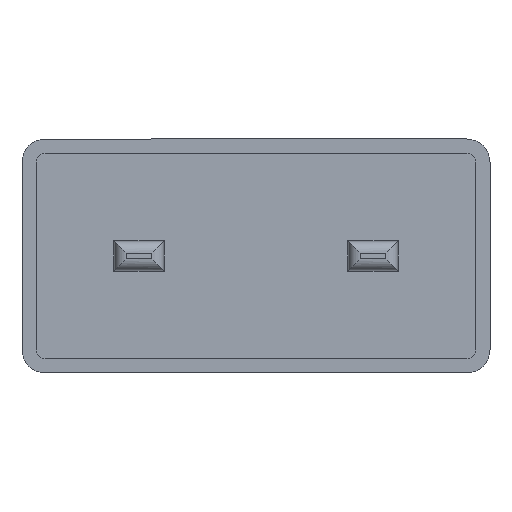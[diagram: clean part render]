
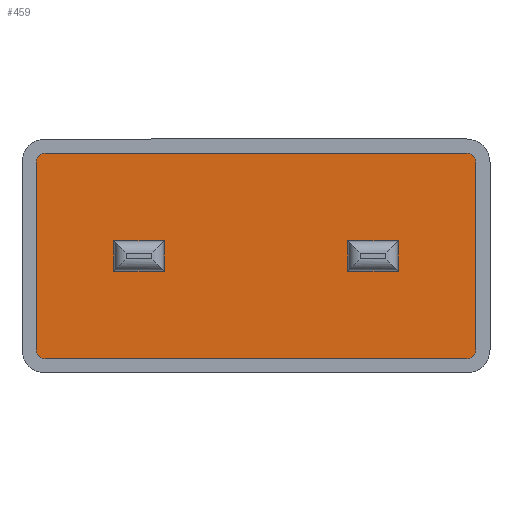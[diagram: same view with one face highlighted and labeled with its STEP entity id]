
A CAD part, front view. The second image highlights one B-rep face of the part: STEP entity #459.
In plain terms, the highlighted planar face has unit normal (0, -1, 0).
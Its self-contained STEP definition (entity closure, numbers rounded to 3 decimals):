
#4 = EDGE_CURVE ( 'NONE', #1000, #364, #965, .T. ) ;
#24 = ORIENTED_EDGE ( 'NONE', *, *, #729, .F. ) ;
#25 = FACE_OUTER_BOUND ( 'NONE', #813, .T. ) ;
#28 = DIRECTION ( 'NONE',  ( 0., 0., 1. ) ) ;
#33 = CARTESIAN_POINT ( 'NONE',  ( -18., -0.5, 8. ) ) ;
#48 = CARTESIAN_POINT ( 'NONE',  ( -18., -0.5, 8. ) ) ;
#51 = LINE ( 'NONE', #934, #1110 ) ;
#66 = CARTESIAN_POINT ( 'NONE',  ( -18., -0.5, 8.8 ) ) ;
#68 = DIRECTION ( 'NONE',  ( 0., 0., -1. ) ) ;
#80 = ORIENTED_EDGE ( 'NONE', *, *, #252, .T. ) ;
#98 = ORIENTED_EDGE ( 'NONE', *, *, #905, .F. ) ;
#117 = CIRCLE ( 'NONE', #1265, 0.8 ) ;
#126 = EDGE_CURVE ( 'NONE', #329, #1000, #117, .T. ) ;
#132 = DIRECTION ( 'NONE',  ( 0., -1., 0. ) ) ;
#145 = DIRECTION ( 'NONE',  ( 0., 0., -1. ) ) ;
#150 = CARTESIAN_POINT ( 'NONE',  ( 7.85, -0.5, 1.3 ) ) ;
#154 = VERTEX_POINT ( 'NONE', #1276 ) ;
#155 = VECTOR ( 'NONE', #444, 1000. ) ;
#162 = CIRCLE ( 'NONE', #754, 0.8 ) ;
#193 = EDGE_CURVE ( 'NONE', #913, #329, #730, .T. ) ;
#194 = VECTOR ( 'NONE', #1081, 1000. ) ;
#204 = CARTESIAN_POINT ( 'NONE',  ( 18.8, -0.5, -8. ) ) ;
#217 = CARTESIAN_POINT ( 'NONE',  ( 7.85, -0.5, 1.3 ) ) ;
#218 = DIRECTION ( 'NONE',  ( 0., -1., 0. ) ) ;
#227 = VERTEX_POINT ( 'NONE', #66 ) ;
#229 = CARTESIAN_POINT ( 'NONE',  ( -7.85, -0.5, 1.3 ) ) ;
#241 = EDGE_LOOP ( 'NONE', ( #727, #527, #24, #684 ) ) ;
#252 = EDGE_CURVE ( 'NONE', #154, #913, #162, .T. ) ;
#266 = CARTESIAN_POINT ( 'NONE',  ( -7.85, -0.5, -1.3 ) ) ;
#276 = FACE_BOUND ( 'NONE', #241, .T. ) ;
#283 = DIRECTION ( 'NONE',  ( 0., 0., -1. ) ) ;
#284 = CARTESIAN_POINT ( 'NONE',  ( 7.85, -0.5, -1.3 ) ) ;
#292 = VECTOR ( 'NONE', #858, 1000. ) ;
#317 = PLANE ( 'NONE',  #521 ) ;
#323 = CARTESIAN_POINT ( 'NONE',  ( 18.8, -0.5, 8. ) ) ;
#329 = VERTEX_POINT ( 'NONE', #1108 ) ;
#339 = CARTESIAN_POINT ( 'NONE',  ( -12.15, -0.5, 1.3 ) ) ;
#349 = VERTEX_POINT ( 'NONE', #217 ) ;
#361 = CARTESIAN_POINT ( 'NONE',  ( 7.85, -0.5, 1.3 ) ) ;
#364 = VERTEX_POINT ( 'NONE', #323 ) ;
#403 = VERTEX_POINT ( 'NONE', #229 ) ;
#410 = VERTEX_POINT ( 'NONE', #952 ) ;
#416 = EDGE_CURVE ( 'NONE', #429, #539, #51, .T. ) ;
#418 = EDGE_LOOP ( 'NONE', ( #98, #1047, #570, #515 ) ) ;
#419 = CIRCLE ( 'NONE', #1016, 0.8 ) ;
#429 = VERTEX_POINT ( 'NONE', #626 ) ;
#435 = VECTOR ( 'NONE', #283, 1000. ) ;
#437 = LINE ( 'NONE', #635, #953 ) ;
#441 = CARTESIAN_POINT ( 'NONE',  ( 18.8, -0.5, 8. ) ) ;
#444 = DIRECTION ( 'NONE',  ( 0., 0., -1. ) ) ;
#454 = VERTEX_POINT ( 'NONE', #1247 ) ;
#459 = ADVANCED_FACE ( 'NONE', ( #276, #25, #1139 ), #317, .T. ) ;
#468 = VECTOR ( 'NONE', #68, 1000. ) ;
#469 = VERTEX_POINT ( 'NONE', #1054 ) ;
#479 = CARTESIAN_POINT ( 'NONE',  ( 18., -0.5, 8. ) ) ;
#486 = LINE ( 'NONE', #339, #155 ) ;
#488 = CARTESIAN_POINT ( 'NONE',  ( -18.8, -0.5, 8. ) ) ;
#515 = ORIENTED_EDGE ( 'NONE', *, *, #416, .F. ) ;
#519 = EDGE_CURVE ( 'NONE', #530, #454, #486, .T. ) ;
#521 = AXIS2_PLACEMENT_3D ( 'NONE', #33, #218, #942 ) ;
#527 = ORIENTED_EDGE ( 'NONE', *, *, #519, .F. ) ;
#528 = EDGE_CURVE ( 'NONE', #227, #919, #419, .T. ) ;
#530 = VERTEX_POINT ( 'NONE', #1064 ) ;
#539 = VERTEX_POINT ( 'NONE', #1262 ) ;
#561 = VECTOR ( 'NONE', #1236, 1000. ) ;
#570 = ORIENTED_EDGE ( 'NONE', *, *, #623, .F. ) ;
#572 = CARTESIAN_POINT ( 'NONE',  ( -18., -0.5, -8. ) ) ;
#581 = LINE ( 'NONE', #1195, #669 ) ;
#587 = DIRECTION ( 'NONE',  ( 0., 0., -1. ) ) ;
#601 = DIRECTION ( 'NONE',  ( 1., 0., 0. ) ) ;
#610 = ORIENTED_EDGE ( 'NONE', *, *, #126, .T. ) ;
#618 = CARTESIAN_POINT ( 'NONE',  ( -18., -0.5, 8.8 ) ) ;
#623 = EDGE_CURVE ( 'NONE', #539, #349, #868, .T. ) ;
#626 = CARTESIAN_POINT ( 'NONE',  ( 12.15, -0.5, -1.3 ) ) ;
#635 = CARTESIAN_POINT ( 'NONE',  ( -12.15, -0.5, 1.3 ) ) ;
#665 = ORIENTED_EDGE ( 'NONE', *, *, #1248, .T. ) ;
#669 = VECTOR ( 'NONE', #1290, 1000. ) ;
#671 = DIRECTION ( 'NONE',  ( 0., 0., -1. ) ) ;
#682 = VECTOR ( 'NONE', #739, 1000. ) ;
#684 = ORIENTED_EDGE ( 'NONE', *, *, #809, .F. ) ;
#691 = EDGE_CURVE ( 'NONE', #349, #469, #1124, .T. ) ;
#715 = LINE ( 'NONE', #909, #966 ) ;
#727 = ORIENTED_EDGE ( 'NONE', *, *, #1310, .F. ) ;
#729 = EDGE_CURVE ( 'NONE', #403, #530, #437, .T. ) ;
#730 = LINE ( 'NONE', #976, #194 ) ;
#734 = CARTESIAN_POINT ( 'NONE',  ( 18., -0.5, -8. ) ) ;
#738 = DIRECTION ( 'NONE',  ( -1., 0., 0. ) ) ;
#739 = DIRECTION ( 'NONE',  ( 0., 0., 1. ) ) ;
#744 = DIRECTION ( 'NONE',  ( 0., -1., 0. ) ) ;
#754 = AXIS2_PLACEMENT_3D ( 'NONE', #572, #1296, #671 ) ;
#784 = ORIENTED_EDGE ( 'NONE', *, *, #193, .T. ) ;
#785 = CIRCLE ( 'NONE', #1221, 0.8 ) ;
#799 = CARTESIAN_POINT ( 'NONE',  ( -18.8, -0.5, 8. ) ) ;
#809 = EDGE_CURVE ( 'NONE', #1231, #403, #581, .T. ) ;
#813 = EDGE_LOOP ( 'NONE', ( #1079, #1234, #80, #784, #610, #1289, #665, #1194 ) ) ;
#839 = DIRECTION ( 'NONE',  ( 0., 0., -1. ) ) ;
#858 = DIRECTION ( 'NONE',  ( -1., 0., 0. ) ) ;
#868 = LINE ( 'NONE', #150, #292 ) ;
#905 = EDGE_CURVE ( 'NONE', #469, #429, #1243, .T. ) ;
#909 = CARTESIAN_POINT ( 'NONE',  ( -12.15, -0.5, -1.3 ) ) ;
#910 = DIRECTION ( 'NONE',  ( 1., 0., 0. ) ) ;
#913 = VERTEX_POINT ( 'NONE', #1015 ) ;
#919 = VERTEX_POINT ( 'NONE', #799 ) ;
#934 = CARTESIAN_POINT ( 'NONE',  ( 12.15, -0.5, 1.3 ) ) ;
#942 = DIRECTION ( 'NONE',  ( 0., 0., -1. ) ) ;
#952 = CARTESIAN_POINT ( 'NONE',  ( 18., -0.5, 8.8 ) ) ;
#953 = VECTOR ( 'NONE', #738, 1000. ) ;
#965 = LINE ( 'NONE', #441, #682 ) ;
#966 = VECTOR ( 'NONE', #601, 1000. ) ;
#969 = VECTOR ( 'NONE', #910, 1000. ) ;
#976 = CARTESIAN_POINT ( 'NONE',  ( -18., -0.5, -8.8 ) ) ;
#1000 = VERTEX_POINT ( 'NONE', #204 ) ;
#1015 = CARTESIAN_POINT ( 'NONE',  ( -18., -0.5, -8.8 ) ) ;
#1016 = AXIS2_PLACEMENT_3D ( 'NONE', #48, #744, #145 ) ;
#1043 = EDGE_CURVE ( 'NONE', #410, #227, #1122, .T. ) ;
#1047 = ORIENTED_EDGE ( 'NONE', *, *, #691, .F. ) ;
#1054 = CARTESIAN_POINT ( 'NONE',  ( 7.85, -0.5, -1.3 ) ) ;
#1064 = CARTESIAN_POINT ( 'NONE',  ( -12.15, -0.5, 1.3 ) ) ;
#1079 = ORIENTED_EDGE ( 'NONE', *, *, #528, .T. ) ;
#1081 = DIRECTION ( 'NONE',  ( 1., 0., 0. ) ) ;
#1108 = CARTESIAN_POINT ( 'NONE',  ( 18., -0.5, -8.8 ) ) ;
#1110 = VECTOR ( 'NONE', #28, 1000. ) ;
#1122 = LINE ( 'NONE', #618, #561 ) ;
#1124 = LINE ( 'NONE', #361, #468 ) ;
#1139 = FACE_BOUND ( 'NONE', #418, .T. ) ;
#1158 = EDGE_CURVE ( 'NONE', #919, #154, #1288, .T. ) ;
#1194 = ORIENTED_EDGE ( 'NONE', *, *, #1043, .T. ) ;
#1195 = CARTESIAN_POINT ( 'NONE',  ( -7.85, -0.5, 1.3 ) ) ;
#1213 = DIRECTION ( 'NONE',  ( 0., -1., 0. ) ) ;
#1221 = AXIS2_PLACEMENT_3D ( 'NONE', #479, #1213, #587 ) ;
#1231 = VERTEX_POINT ( 'NONE', #266 ) ;
#1234 = ORIENTED_EDGE ( 'NONE', *, *, #1158, .T. ) ;
#1236 = DIRECTION ( 'NONE',  ( -1., 0., 0. ) ) ;
#1243 = LINE ( 'NONE', #284, #969 ) ;
#1247 = CARTESIAN_POINT ( 'NONE',  ( -12.15, -0.5, -1.3 ) ) ;
#1248 = EDGE_CURVE ( 'NONE', #364, #410, #785, .T. ) ;
#1262 = CARTESIAN_POINT ( 'NONE',  ( 12.15, -0.5, 1.3 ) ) ;
#1265 = AXIS2_PLACEMENT_3D ( 'NONE', #734, #132, #839 ) ;
#1276 = CARTESIAN_POINT ( 'NONE',  ( -18.8, -0.5, -8. ) ) ;
#1288 = LINE ( 'NONE', #488, #435 ) ;
#1289 = ORIENTED_EDGE ( 'NONE', *, *, #4, .T. ) ;
#1290 = DIRECTION ( 'NONE',  ( 0., 0., 1. ) ) ;
#1296 = DIRECTION ( 'NONE',  ( 0., -1., 0. ) ) ;
#1310 = EDGE_CURVE ( 'NONE', #454, #1231, #715, .T. ) ;
